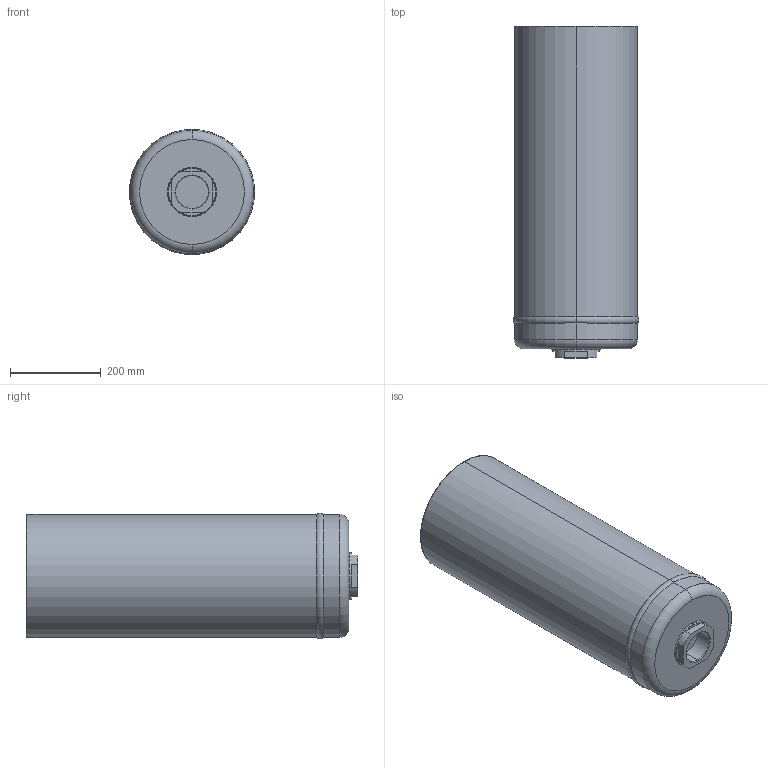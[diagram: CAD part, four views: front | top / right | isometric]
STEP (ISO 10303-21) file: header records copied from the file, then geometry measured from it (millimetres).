
FILE_DESCRIPTION (( 'STEP AP214' ), '1' );
FILE_NAME ('U250A10X1-AI.STEP', '2025-05-28T10:10:29', ( '' ), ( '' ), 'SwSTEP 2.0', 'SolidWorks 2024', '' );
FILE_SCHEMA (( 'AUTOMOTIVE_DESIGN' ));
Length unit declared in the file: millimetre
Products named in the file (1): U250A10X1-AI
Bounding box: 276.13 x 731 x 276.13 mm (x, y, z)
Volume: 38941124.1 mm3; surface area: 794057.6 mm2
Topology: 9 solids, 9 shells, 331 faces, 756 edges, 454 vertices
Faces by surface type: plane 120, cylinder 93, torus 54, cone 40, bspline 20, sphere 4
Entity records: 14427 total; most frequent: CARTESIAN_POINT 6843, DIRECTION 1650, ORIENTED_EDGE 1488, EDGE_CURVE 744, AXIS2_PLACEMENT_3D 683, VERTEX_POINT 454, EDGE_LOOP 378, CIRCLE 371
